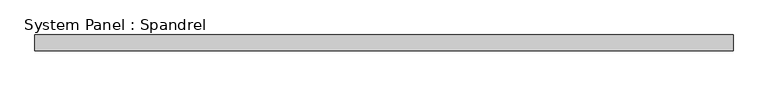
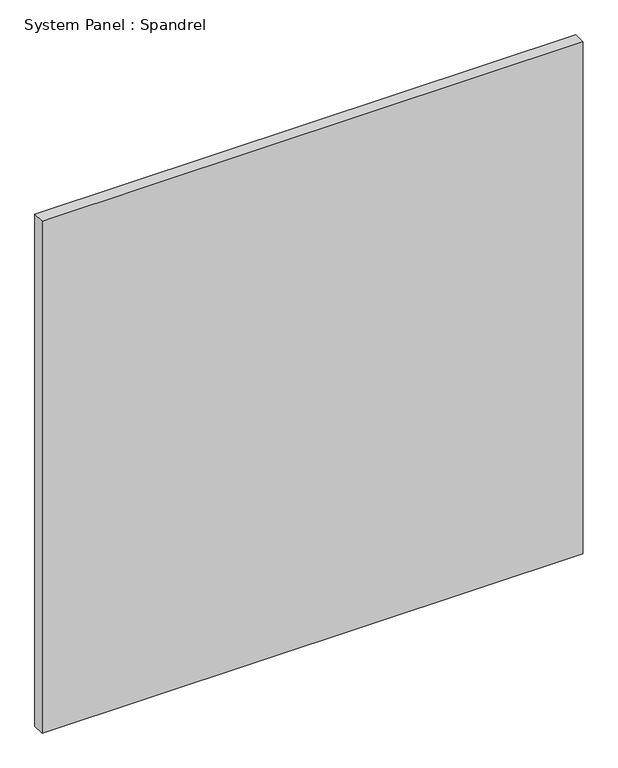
"""IFC4 building model written with IfcOpenShell, lengths in millimetres: plate geometry, System Panel : Spandrel."""

from ifc_helpers import new_model, si_unit, origin, origin_with_axes, place, context, project, spatial, polyline, outline, extrude, source, transform, mapped, element, save


def system_panel_spandrel_a5c25f9f(model_context):
    return source(origin(), model_context, "Body", "SweptSolid", [
        extrude(outline(polyline([(550.0, 0.0), (-550.0, 0.0), (-550.0, 25.0), (550.0, 25.0), (550.0, 0.0)])), origin_with_axes(), (0.0, 0.0, 1.0), 1100.0),
    ])


if __name__ == "__main__":
    model = new_model("IFC4")
    model_context = context("Model", 3, world=origin())
    ifc_project = project(units=[si_unit("LENGTHUNIT", "METRE", prefix="MILLI")], contexts=[model_context])
    site = spatial("IfcSite", under=ifc_project)
    building = spatial("IfcBuilding", under=site)
    placement = place(None, origin())
    system_panel_spandrel_shape = system_panel_spandrel_a5c25f9f(model_context)
    element("IfcPlate", 1, ObjectType="System Panel : Spandrel", at=placement, inside=building, context=model_context, shape_type="MappedRepresentation", body=[
        mapped(system_panel_spandrel_shape, transform((0.0, 0.0, 0.0), x_axis=(1.0, 0.0, 0.0), y_axis=(0.0, 1.0, 0.0), z_axis=(0.0, 0.0, 1.0))),
    ])
    save(model, "model.ifc")
